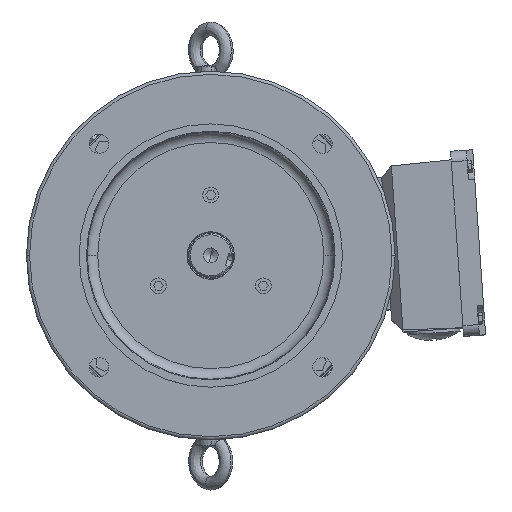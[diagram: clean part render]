
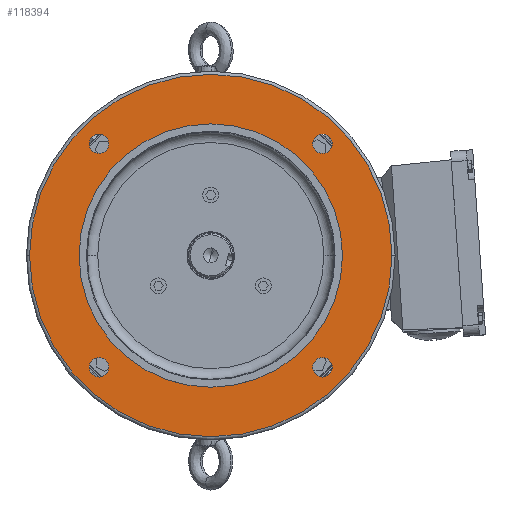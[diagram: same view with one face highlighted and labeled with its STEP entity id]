
A CAD part, top view. The second image highlights one B-rep face of the part: STEP entity #118394.
In plain terms, the highlighted planar face has unit normal (0, 0, 1).
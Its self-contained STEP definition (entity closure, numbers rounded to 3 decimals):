
#8401 = ORIENTED_EDGE ( 'NONE', *, *, #68001, .F. ) ;
#8402 = ORIENTED_EDGE ( 'NONE', *, *, #62753, .F. ) ;
#8403 = ORIENTED_EDGE ( 'NONE', *, *, #62754, .T. ) ;
#8404 = ORIENTED_EDGE ( 'NONE', *, *, #67939, .T. ) ;
#8405 = ORIENTED_EDGE ( 'NONE', *, *, #62755, .F. ) ;
#8406 = ORIENTED_EDGE ( 'NONE', *, *, #67959, .F. ) ;
#8407 = ORIENTED_EDGE ( 'NONE', *, *, #62756, .F. ) ;
#8408 = ORIENTED_EDGE ( 'NONE', *, *, #67967, .F. ) ;
#8409 = ORIENTED_EDGE ( 'NONE', *, *, #62757, .F. ) ;
#8410 = ORIENTED_EDGE ( 'NONE', *, *, #67975, .F. ) ;
#8411 = ORIENTED_EDGE ( 'NONE', *, *, #62758, .F. ) ;
#8412 = ORIENTED_EDGE ( 'NONE', *, *, #67983, .F. ) ;
#22478 = EDGE_LOOP ( 'NONE', ( #8401, #8402 ) ) ;
#22482 = EDGE_LOOP ( 'NONE', ( #8411, #8412 ) ) ;
#27901 = CARTESIAN_POINT ( 'NONE',  ( 0., 0., 17. ) ) ;
#27902 = DIRECTION ( 'NONE',  ( 0., 0., 1. ) ) ;
#27903 = DIRECTION ( 'NONE',  ( 1., 0., 0. ) ) ;
#27904 = CARTESIAN_POINT ( 'NONE',  ( 0., 0., 17. ) ) ;
#27905 = DIRECTION ( 'NONE',  ( 0., 0., 1. ) ) ;
#27906 = DIRECTION ( 'NONE',  ( -1., 0., 0. ) ) ;
#27907 = CARTESIAN_POINT ( 'NONE',  ( -106.066, 106.066, 17. ) ) ;
#27908 = DIRECTION ( 'NONE',  ( 0., 0., 1. ) ) ;
#27909 = DIRECTION ( 'NONE',  ( 1., 0., 0. ) ) ;
#27910 = CARTESIAN_POINT ( 'NONE',  ( -106.066, -106.066, 17. ) ) ;
#27911 = DIRECTION ( 'NONE',  ( 0., 0., 1. ) ) ;
#27912 = DIRECTION ( 'NONE',  ( 1., 0., 0. ) ) ;
#27913 = CARTESIAN_POINT ( 'NONE',  ( 106.066, -106.066, 17. ) ) ;
#27914 = DIRECTION ( 'NONE',  ( 0., 0., 1. ) ) ;
#27915 = DIRECTION ( 'NONE',  ( 1., 0., 0. ) ) ;
#27916 = CARTESIAN_POINT ( 'NONE',  ( 106.066, 106.066, 17. ) ) ;
#27917 = DIRECTION ( 'NONE',  ( 0., 0., 1. ) ) ;
#27918 = DIRECTION ( 'NONE',  ( 1., 0., 0. ) ) ;
#31428 = CARTESIAN_POINT ( 'NONE',  ( 172., 0., 17. ) ) ;
#31429 = CARTESIAN_POINT ( 'NONE',  ( -172., 0., 17. ) ) ;
#31554 = CARTESIAN_POINT ( 'NONE',  ( -115.316, 106.066, 17. ) ) ;
#31580 = CARTESIAN_POINT ( 'NONE',  ( -96.816, 106.066, 17. ) ) ;
#31875 = CARTESIAN_POINT ( 'NONE',  ( 125., 0., 17. ) ) ;
#31935 = CARTESIAN_POINT ( 'NONE',  ( -115.316, -106.066, 17. ) ) ;
#31994 = CARTESIAN_POINT ( 'NONE',  ( -96.816, -106.066, 17. ) ) ;
#32046 = CARTESIAN_POINT ( 'NONE',  ( 96.816, -106.066, 17. ) ) ;
#32071 = CARTESIAN_POINT ( 'NONE',  ( 115.316, -106.066, 17. ) ) ;
#32190 = CARTESIAN_POINT ( 'NONE',  ( 96.816, 106.066, 17. ) ) ;
#32252 = CARTESIAN_POINT ( 'NONE',  ( 115.316, 106.066, 17. ) ) ;
#32454 = CARTESIAN_POINT ( 'NONE',  ( -125., 0., 17. ) ) ;
#41541 = EDGE_LOOP ( 'NONE', ( #8407, #8408 ) ) ;
#41580 = EDGE_LOOP ( 'NONE', ( #8403, #8404 ) ) ;
#41670 = EDGE_LOOP ( 'NONE', ( #8405, #8406 ) ) ;
#41682 = EDGE_LOOP ( 'NONE', ( #8409, #8410 ) ) ;
#43056 = CIRCLE ( 'NONE', #52250, 172. ) ;
#43058 = CIRCLE ( 'NONE', #52248, 125. ) ;
#43060 = CIRCLE ( 'NONE', #52252, 9.25 ) ;
#43062 = CIRCLE ( 'NONE', #52254, 9.25 ) ;
#43064 = CIRCLE ( 'NONE', #52257, 9.25 ) ;
#43066 = CIRCLE ( 'NONE', #52259, 9.25 ) ;
#47473 = FACE_BOUND ( 'NONE', #41670, .T. ) ;
#47482 = FACE_BOUND ( 'NONE', #41541, .T. ) ;
#47492 = FACE_BOUND ( 'NONE', #22478, .T. ) ;
#47493 = FACE_BOUND ( 'NONE', #41682, .T. ) ;
#47497 = FACE_OUTER_BOUND ( 'NONE', #41580, .T. ) ;
#47500 = FACE_BOUND ( 'NONE', #22482, .T. ) ;
#48387 = AXIS2_PLACEMENT_3D ( 'NONE', #81553, #81545, #81555 ) ;
#51748 = VERTEX_POINT ( 'NONE', #32454 ) ;
#51805 = VERTEX_POINT ( 'NONE', #32252 ) ;
#51827 = VERTEX_POINT ( 'NONE', #32190 ) ;
#51851 = VERTEX_POINT ( 'NONE', #32071 ) ;
#51857 = VERTEX_POINT ( 'NONE', #32046 ) ;
#51878 = VERTEX_POINT ( 'NONE', #31994 ) ;
#51883 = VERTEX_POINT ( 'NONE', #31935 ) ;
#51897 = VERTEX_POINT ( 'NONE', #31580 ) ;
#51904 = VERTEX_POINT ( 'NONE', #31554 ) ;
#51974 = VERTEX_POINT ( 'NONE', #31429 ) ;
#51976 = VERTEX_POINT ( 'NONE', #31428 ) ;
#52110 = VERTEX_POINT ( 'NONE', #31875 ) ;
#52248 = AXIS2_PLACEMENT_3D ( 'NONE', #27901, #27902, #27903 ) ;
#52250 = AXIS2_PLACEMENT_3D ( 'NONE', #27904, #27905, #27906 ) ;
#52252 = AXIS2_PLACEMENT_3D ( 'NONE', #27907, #27908, #27909 ) ;
#52254 = AXIS2_PLACEMENT_3D ( 'NONE', #27910, #27911, #27912 ) ;
#52257 = AXIS2_PLACEMENT_3D ( 'NONE', #27913, #27914, #27915 ) ;
#52259 = AXIS2_PLACEMENT_3D ( 'NONE', #27916, #27917, #27918 ) ;
#52784 = AXIS2_PLACEMENT_3D ( 'NONE', #84142, #84143, #84144 ) ;
#52807 = AXIS2_PLACEMENT_3D ( 'NONE', #68962, #68963, #68964 ) ;
#52811 = AXIS2_PLACEMENT_3D ( 'NONE', #68998, #68999, #69000 ) ;
#52822 = AXIS2_PLACEMENT_3D ( 'NONE', #69020, #69021, #69022 ) ;
#52829 = AXIS2_PLACEMENT_3D ( 'NONE', #69038, #69039, #69040 ) ;
#52859 = AXIS2_PLACEMENT_3D ( 'NONE', #69087, #69088, #69089 ) ;
#62753 = EDGE_CURVE ( 'NONE', #51748, #52110, #43058, .T. ) ;
#62754 = EDGE_CURVE ( 'NONE', #51974, #51976, #43056, .T. ) ;
#62755 = EDGE_CURVE ( 'NONE', #51897, #51904, #43060, .T. ) ;
#62756 = EDGE_CURVE ( 'NONE', #51878, #51883, #43062, .T. ) ;
#62757 = EDGE_CURVE ( 'NONE', #51851, #51857, #43064, .T. ) ;
#62758 = EDGE_CURVE ( 'NONE', #51805, #51827, #43066, .T. ) ;
#67939 = EDGE_CURVE ( 'NONE', #51976, #51974, #85307, .T. ) ;
#67959 = EDGE_CURVE ( 'NONE', #51904, #51897, #85326, .T. ) ;
#67967 = EDGE_CURVE ( 'NONE', #51883, #51878, #85331, .T. ) ;
#67975 = EDGE_CURVE ( 'NONE', #51857, #51851, #85344, .T. ) ;
#67983 = EDGE_CURVE ( 'NONE', #51827, #51805, #85358, .T. ) ;
#68001 = EDGE_CURVE ( 'NONE', #52110, #51748, #85381, .T. ) ;
#68962 = CARTESIAN_POINT ( 'NONE',  ( -106.066, 106.066, 17. ) ) ;
#68963 = DIRECTION ( 'NONE',  ( 0., 0., 1. ) ) ;
#68964 = DIRECTION ( 'NONE',  ( 1., 0., 0. ) ) ;
#68998 = CARTESIAN_POINT ( 'NONE',  ( -106.066, -106.066, 17. ) ) ;
#68999 = DIRECTION ( 'NONE',  ( 0., 0., 1. ) ) ;
#69000 = DIRECTION ( 'NONE',  ( 1., 0., 0. ) ) ;
#69020 = CARTESIAN_POINT ( 'NONE',  ( 106.066, -106.066, 17. ) ) ;
#69021 = DIRECTION ( 'NONE',  ( 0., 0., 1. ) ) ;
#69022 = DIRECTION ( 'NONE',  ( 1., 0., 0. ) ) ;
#69038 = CARTESIAN_POINT ( 'NONE',  ( 106.066, 106.066, 17. ) ) ;
#69039 = DIRECTION ( 'NONE',  ( 0., 0., 1. ) ) ;
#69040 = DIRECTION ( 'NONE',  ( 1., 0., 0. ) ) ;
#69087 = CARTESIAN_POINT ( 'NONE',  ( 0., 0., 17. ) ) ;
#69088 = DIRECTION ( 'NONE',  ( 0., 0., 1. ) ) ;
#69089 = DIRECTION ( 'NONE',  ( 1., 0., 0. ) ) ;
#81545 = DIRECTION ( 'NONE',  ( 0., 0., -1. ) ) ;
#81551 = PLANE ( 'NONE',  #48387 ) ;
#81553 = CARTESIAN_POINT ( 'NONE',  ( 0., 175., 17. ) ) ;
#81555 = DIRECTION ( 'NONE',  ( -1., 0., 0. ) ) ;
#84142 = CARTESIAN_POINT ( 'NONE',  ( 0., 0., 17. ) ) ;
#84143 = DIRECTION ( 'NONE',  ( 0., 0., 1. ) ) ;
#84144 = DIRECTION ( 'NONE',  ( -1., 0., 0. ) ) ;
#85307 = CIRCLE ( 'NONE', #52784, 172. ) ;
#85326 = CIRCLE ( 'NONE', #52807, 9.25 ) ;
#85331 = CIRCLE ( 'NONE', #52811, 9.25 ) ;
#85344 = CIRCLE ( 'NONE', #52822, 9.25 ) ;
#85358 = CIRCLE ( 'NONE', #52829, 9.25 ) ;
#85381 = CIRCLE ( 'NONE', #52859, 125. ) ;
#118394 = ADVANCED_FACE ( 'NONE', ( #47492, #47497, #47473, #47482, #47493, #47500 ), #81551, .F. ) ;
